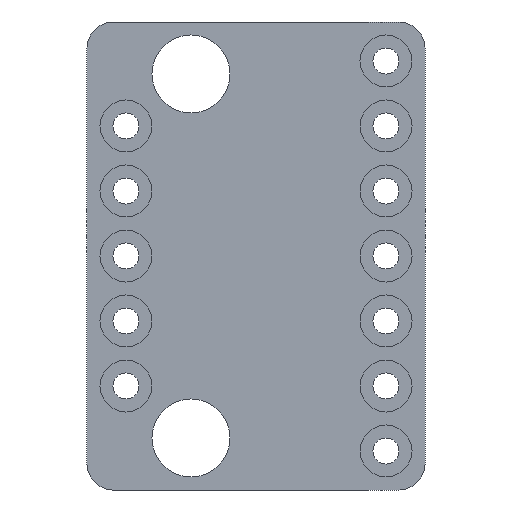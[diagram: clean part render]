
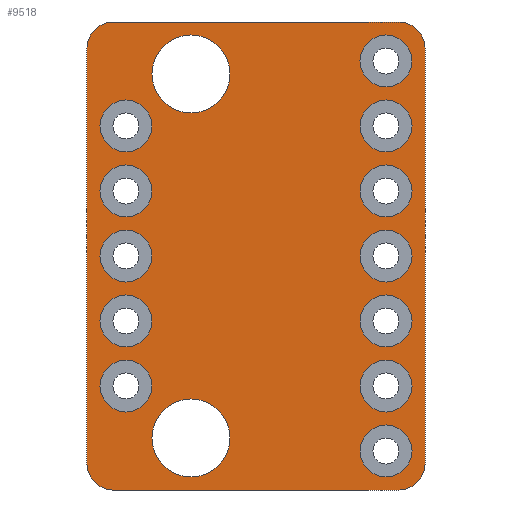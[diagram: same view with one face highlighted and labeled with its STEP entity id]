
A CAD part, front view. The second image highlights one B-rep face of the part: STEP entity #9518.
In plain terms, the highlighted planar face has unit normal (0, -1, 0).
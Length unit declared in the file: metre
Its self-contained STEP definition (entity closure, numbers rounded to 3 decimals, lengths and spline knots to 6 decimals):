
#532=LINE('',#16174,#1339);
#535=LINE('',#16180,#1342);
#537=LINE('',#16184,#1344);
#541=LINE('',#16255,#1348);
#1339=VECTOR('',#12875,1.);
#1342=VECTOR('',#12880,1.);
#1344=VECTOR('',#12884,1.);
#1348=VECTOR('',#12966,1.);
#2481=ORIENTED_EDGE('',*,*,#5273,.T.);
#2482=ORIENTED_EDGE('',*,*,#5307,.T.);
#2483=ORIENTED_EDGE('',*,*,#5275,.F.);
#2484=ORIENTED_EDGE('',*,*,#5308,.T.);
#2485=ORIENTED_EDGE('',*,*,#5304,.F.);
#2486=ORIENTED_EDGE('',*,*,#5309,.T.);
#2487=ORIENTED_EDGE('',*,*,#5270,.T.);
#2488=ORIENTED_EDGE('',*,*,#5310,.T.);
#2489=ORIENTED_EDGE('',*,*,#5302,.F.);
#2490=ORIENTED_EDGE('',*,*,#5300,.F.);
#2491=ORIENTED_EDGE('',*,*,#5299,.F.);
#2492=ORIENTED_EDGE('',*,*,#5297,.F.);
#2493=ORIENTED_EDGE('',*,*,#5295,.F.);
#2494=ORIENTED_EDGE('',*,*,#5293,.F.);
#2495=ORIENTED_EDGE('',*,*,#5291,.F.);
#2496=ORIENTED_EDGE('',*,*,#5289,.F.);
#2497=ORIENTED_EDGE('',*,*,#5287,.F.);
#2498=ORIENTED_EDGE('',*,*,#5285,.F.);
#2499=ORIENTED_EDGE('',*,*,#5283,.F.);
#2500=ORIENTED_EDGE('',*,*,#5281,.F.);
#2501=ORIENTED_EDGE('',*,*,#5279,.F.);
#2502=ORIENTED_EDGE('',*,*,#5306,.F.);
#5270=EDGE_CURVE('',#6686,#6685,#532,.T.);
#5273=EDGE_CURVE('',#6688,#6687,#535,.T.);
#5275=EDGE_CURVE('',#6689,#6690,#537,.T.);
#5279=EDGE_CURVE('',#6692,#6692,#7469,.T.);
#5281=EDGE_CURVE('',#6694,#6694,#7471,.T.);
#5283=EDGE_CURVE('',#6696,#6696,#7473,.T.);
#5285=EDGE_CURVE('',#6698,#6698,#7475,.T.);
#5287=EDGE_CURVE('',#6700,#6700,#7477,.T.);
#5289=EDGE_CURVE('',#6702,#6702,#7479,.T.);
#5291=EDGE_CURVE('',#6704,#6704,#7481,.T.);
#5293=EDGE_CURVE('',#6706,#6706,#7483,.T.);
#5295=EDGE_CURVE('',#6708,#6708,#7485,.T.);
#5297=EDGE_CURVE('',#6710,#6710,#7487,.T.);
#5299=EDGE_CURVE('',#6712,#6712,#7489,.T.);
#5300=EDGE_CURVE('',#6713,#6713,#7490,.T.);
#5302=EDGE_CURVE('',#6715,#6715,#7492,.T.);
#5304=EDGE_CURVE('',#6716,#6717,#541,.T.);
#5306=EDGE_CURVE('',#6718,#6718,#7493,.T.);
#5307=EDGE_CURVE('',#6687,#6690,#7494,.T.);
#5308=EDGE_CURVE('',#6689,#6717,#7495,.T.);
#5309=EDGE_CURVE('',#6716,#6686,#7496,.T.);
#5310=EDGE_CURVE('',#6685,#6688,#7497,.T.);
#6685=VERTEX_POINT('',#16173);
#6686=VERTEX_POINT('',#16175);
#6687=VERTEX_POINT('',#16179);
#6688=VERTEX_POINT('',#16181);
#6689=VERTEX_POINT('',#16185);
#6690=VERTEX_POINT('',#16186);
#6692=VERTEX_POINT('',#16193);
#6694=VERTEX_POINT('',#16198);
#6696=VERTEX_POINT('',#16203);
#6698=VERTEX_POINT('',#16208);
#6700=VERTEX_POINT('',#16213);
#6702=VERTEX_POINT('',#16218);
#6704=VERTEX_POINT('',#16223);
#6706=VERTEX_POINT('',#16228);
#6708=VERTEX_POINT('',#16233);
#6710=VERTEX_POINT('',#16238);
#6712=VERTEX_POINT('',#16243);
#6713=VERTEX_POINT('',#16246);
#6715=VERTEX_POINT('',#16251);
#6716=VERTEX_POINT('',#16254);
#6717=VERTEX_POINT('',#16256);
#6718=VERTEX_POINT('',#16260);
#7469=CIRCLE('',#11229,0.001);
#7471=CIRCLE('',#11232,0.001);
#7473=CIRCLE('',#11235,0.001);
#7475=CIRCLE('',#11238,0.001);
#7477=CIRCLE('',#11241,0.001);
#7479=CIRCLE('',#11244,0.001);
#7481=CIRCLE('',#11247,0.001);
#7483=CIRCLE('',#11250,0.001);
#7485=CIRCLE('',#11253,0.001);
#7487=CIRCLE('',#11256,0.001);
#7489=CIRCLE('',#11259,0.001);
#7490=CIRCLE('',#11261,0.0015);
#7492=CIRCLE('',#11264,0.001);
#7493=CIRCLE('',#11267,0.0015);
#7494=CIRCLE('',#11269,0.001);
#7495=CIRCLE('',#11270,0.001);
#7496=CIRCLE('',#11271,0.001);
#7497=CIRCLE('',#11272,0.001);
#7915=EDGE_LOOP('',(#2481,#2482,#2483,#2484,#2485,#2486,#2487,#2488));
#7916=EDGE_LOOP('',(#2489));
#7917=EDGE_LOOP('',(#2490));
#7918=EDGE_LOOP('',(#2491));
#7919=EDGE_LOOP('',(#2492));
#7920=EDGE_LOOP('',(#2493));
#7921=EDGE_LOOP('',(#2494));
#7922=EDGE_LOOP('',(#2495));
#7923=EDGE_LOOP('',(#2496));
#7924=EDGE_LOOP('',(#2497));
#7925=EDGE_LOOP('',(#2498));
#7926=EDGE_LOOP('',(#2499));
#7927=EDGE_LOOP('',(#2500));
#7928=EDGE_LOOP('',(#2501));
#7929=EDGE_LOOP('',(#2502));
#8558=FACE_BOUND('',#7915,.T.);
#8559=FACE_BOUND('',#7916,.T.);
#8560=FACE_BOUND('',#7917,.T.);
#8561=FACE_BOUND('',#7918,.T.);
#8562=FACE_BOUND('',#7919,.T.);
#8563=FACE_BOUND('',#7920,.T.);
#8564=FACE_BOUND('',#7921,.T.);
#8565=FACE_BOUND('',#7922,.T.);
#8566=FACE_BOUND('',#7923,.T.);
#8567=FACE_BOUND('',#7924,.T.);
#8568=FACE_BOUND('',#7925,.T.);
#8569=FACE_BOUND('',#7926,.T.);
#8570=FACE_BOUND('',#7927,.T.);
#8571=FACE_BOUND('',#7928,.T.);
#8572=FACE_BOUND('',#7929,.T.);
#9118=PLANE('',#11268);
#9518=ADVANCED_FACE('Face appearance 1',(#8558,#8559,#8560,#8561,#8562,
#8563,#8564,#8565,#8566,#8567,#8568,#8569,#8570,#8571,#8572),#9118,.T.);
#11229=AXIS2_PLACEMENT_3D('',#16192,#12891,#12892);
#11232=AXIS2_PLACEMENT_3D('',#16197,#12897,#12898);
#11235=AXIS2_PLACEMENT_3D('',#16202,#12903,#12904);
#11238=AXIS2_PLACEMENT_3D('',#16207,#12909,#12910);
#11241=AXIS2_PLACEMENT_3D('',#16212,#12915,#12916);
#11244=AXIS2_PLACEMENT_3D('',#16217,#12921,#12922);
#11247=AXIS2_PLACEMENT_3D('',#16222,#12927,#12928);
#11250=AXIS2_PLACEMENT_3D('',#16227,#12933,#12934);
#11253=AXIS2_PLACEMENT_3D('',#16232,#12939,#12940);
#11256=AXIS2_PLACEMENT_3D('',#16237,#12945,#12946);
#11259=AXIS2_PLACEMENT_3D('',#16242,#12951,#12952);
#11261=AXIS2_PLACEMENT_3D('',#16245,#12955,#12956);
#11264=AXIS2_PLACEMENT_3D('',#16250,#12961,#12962);
#11267=AXIS2_PLACEMENT_3D('',#16259,#12970,#12971);
#11268=AXIS2_PLACEMENT_3D('',#16261,#12972,#12973);
#11269=AXIS2_PLACEMENT_3D('',#16262,#12974,#12975);
#11270=AXIS2_PLACEMENT_3D('',#16263,#12976,#12977);
#11271=AXIS2_PLACEMENT_3D('',#16264,#12978,#12979);
#11272=AXIS2_PLACEMENT_3D('',#16265,#12980,#12981);
#12875=DIRECTION('',(0.,0.,-1.));
#12880=DIRECTION('',(1.,0.,0.));
#12884=DIRECTION('',(0.,0.,-1.));
#12891=DIRECTION('',(0.,-1.,0.));
#12892=DIRECTION('',(0.,0.,-1.));
#12897=DIRECTION('',(0.,-1.,0.));
#12898=DIRECTION('',(0.,0.,-1.));
#12903=DIRECTION('',(0.,-1.,0.));
#12904=DIRECTION('',(0.,0.,-1.));
#12909=DIRECTION('',(0.,-1.,0.));
#12910=DIRECTION('',(0.,0.,-1.));
#12915=DIRECTION('',(0.,-1.,0.));
#12916=DIRECTION('',(0.,0.,-1.));
#12921=DIRECTION('',(0.,-1.,0.));
#12922=DIRECTION('',(0.,0.,-1.));
#12927=DIRECTION('',(0.,-1.,0.));
#12928=DIRECTION('',(0.,0.,-1.));
#12933=DIRECTION('',(0.,-1.,0.));
#12934=DIRECTION('',(0.,0.,-1.));
#12939=DIRECTION('',(0.,-1.,0.));
#12940=DIRECTION('',(0.,0.,-1.));
#12945=DIRECTION('',(0.,-1.,0.));
#12946=DIRECTION('',(0.,0.,-1.));
#12951=DIRECTION('',(0.,-1.,0.));
#12952=DIRECTION('',(0.,0.,-1.));
#12955=DIRECTION('',(0.,-1.,0.));
#12956=DIRECTION('',(0.,0.,-1.));
#12961=DIRECTION('',(0.,-1.,0.));
#12962=DIRECTION('',(0.,0.,-1.));
#12966=DIRECTION('',(1.,0.,0.));
#12970=DIRECTION('',(0.,-1.,0.));
#12971=DIRECTION('',(0.,0.,-1.));
#12972=DIRECTION('',(0.,-1.,0.));
#12973=DIRECTION('',(1.,0.,0.));
#12974=DIRECTION('',(0.,-1.,0.));
#12975=DIRECTION('',(0.,0.,-1.));
#12976=DIRECTION('',(0.,-1.,0.));
#12977=DIRECTION('',(0.,0.,-1.));
#12978=DIRECTION('',(0.,-1.,0.));
#12979=DIRECTION('',(0.,0.,-1.));
#12980=DIRECTION('',(0.,-1.,0.));
#12981=DIRECTION('',(0.,0.,-1.));
#16173=CARTESIAN_POINT('',(-0.015621,-0.0015,0.032469));
#16174=CARTESIAN_POINT('',(-0.015621,-0.0015,0.048469));
#16175=CARTESIAN_POINT('',(-0.015621,-0.0015,0.048469));
#16179=CARTESIAN_POINT('',(-0.003621,-0.0015,0.031469));
#16180=CARTESIAN_POINT('',(-0.014871,-0.0015,0.031469));
#16181=CARTESIAN_POINT('',(-0.014621,-0.0015,0.031469));
#16184=CARTESIAN_POINT('',(-0.002621,-0.0015,0.048469));
#16185=CARTESIAN_POINT('',(-0.002621,-0.0015,0.048469));
#16186=CARTESIAN_POINT('',(-0.002621,-0.0015,0.032469));
#16192=CARTESIAN_POINT('',(-0.004121,-0.0015,0.032969));
#16193=CARTESIAN_POINT('',(-0.004121,-0.0015,0.031969));
#16197=CARTESIAN_POINT('',(-0.004121,-0.0015,0.035469));
#16198=CARTESIAN_POINT('',(-0.004121,-0.0015,0.034469));
#16202=CARTESIAN_POINT('',(-0.004121,-0.0015,0.037969));
#16203=CARTESIAN_POINT('',(-0.004121,-0.0015,0.036969));
#16207=CARTESIAN_POINT('',(-0.004121,-0.0015,0.040469));
#16208=CARTESIAN_POINT('',(-0.004121,-0.0015,0.039469));
#16212=CARTESIAN_POINT('',(-0.004121,-0.0015,0.042969));
#16213=CARTESIAN_POINT('',(-0.004121,-0.0015,0.041969));
#16217=CARTESIAN_POINT('',(-0.004121,-0.0015,0.045469));
#16218=CARTESIAN_POINT('',(-0.004121,-0.0015,0.044469));
#16222=CARTESIAN_POINT('',(-0.014121,-0.0015,0.045469));
#16223=CARTESIAN_POINT('',(-0.014121,-0.0015,0.044469));
#16227=CARTESIAN_POINT('',(-0.014121,-0.0015,0.042969));
#16228=CARTESIAN_POINT('',(-0.014121,-0.0015,0.041969));
#16232=CARTESIAN_POINT('',(-0.014121,-0.0015,0.040469));
#16233=CARTESIAN_POINT('',(-0.014121,-0.0015,0.039469));
#16237=CARTESIAN_POINT('',(-0.014121,-0.0015,0.037969));
#16238=CARTESIAN_POINT('',(-0.014121,-0.0015,0.036969));
#16242=CARTESIAN_POINT('',(-0.014121,-0.0015,0.035469));
#16243=CARTESIAN_POINT('',(-0.014121,-0.0015,0.034469));
#16245=CARTESIAN_POINT('',(-0.011621,-0.0015,0.047469));
#16246=CARTESIAN_POINT('',(-0.011621,-0.0015,0.045969));
#16250=CARTESIAN_POINT('',(-0.004121,-0.0015,0.047969));
#16251=CARTESIAN_POINT('',(-0.004121,-0.0015,0.046969));
#16254=CARTESIAN_POINT('',(-0.014621,-0.0015,0.049469));
#16255=CARTESIAN_POINT('',(-0.014871,-0.0015,0.049469));
#16256=CARTESIAN_POINT('',(-0.003621,-0.0015,0.049469));
#16259=CARTESIAN_POINT('',(-0.011621,-0.0015,0.033469));
#16260=CARTESIAN_POINT('',(-0.011621,-0.0015,0.031969));
#16261=CARTESIAN_POINT('',(-0.009121,-0.0015,0.040469));
#16262=CARTESIAN_POINT('',(-0.003621,-0.0015,0.032469));
#16263=CARTESIAN_POINT('',(-0.003621,-0.0015,0.048469));
#16264=CARTESIAN_POINT('',(-0.014621,-0.0015,0.048469));
#16265=CARTESIAN_POINT('',(-0.014621,-0.0015,0.032469));
